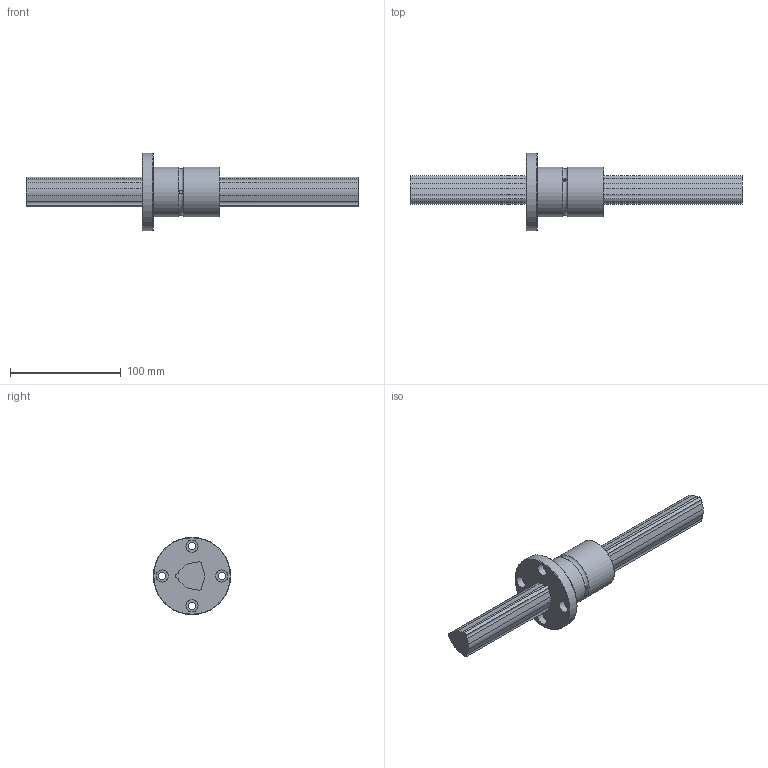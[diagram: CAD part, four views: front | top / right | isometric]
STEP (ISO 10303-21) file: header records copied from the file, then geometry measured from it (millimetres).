
FILE_DESCRIPTION(/* description */ ('STEP AP214'),/* implementation_level */ '2;1');
FILE_NAME(/* name */ 'LBF30+300L(3001050)',/* time_stamp */ '2024-09-04T13:01:15+02:00',/* author */ ('License CC BY-ND 4.0'),/* organization */ ('CADENAS'),/* preprocessor_version */ 'ST-DEVELOPER v19.3',/* originating_system */ 'PARTsolutions',/* authorisation */ ' ');
FILE_SCHEMA (('AUTOMOTIVE_DESIGN {1 0 10303 214 3 1 1}'));
Length unit declared in the file: millimetre
Products named in the file (3): LBF30+300L(3001050); LBF301300 Spline Shaft; LBF30 Nut
Assembly tree (2 placements, depth 2):
  LBF30+300L(3001050)
    LBF301300 Spline Shaft
    LBF30 Nut
Bounding box: 300 x 70 x 70 mm (x, y, z)
Volume: 237345 mm3; surface area: 51036.6 mm2
Topology: 2 solids, 2 shells, 66 faces, 164 edges, 110 vertices
Faces by surface type: cylinder 38, plane 24, torus 2, cone 2
Full cylindrical faces by diameter (mm): 3 x3, 6.6 x4, 11 x4, 45 x2, 70 x1
Entity records: 1978 total; most frequent: CARTESIAN_POINT 353, DIRECTION 350, ORIENTED_EDGE 278, AXIS2_PLACEMENT_3D 145, EDGE_CURVE 139, VERTEX_POINT 103, EDGE_LOOP 102, FACE_BOUND 102
